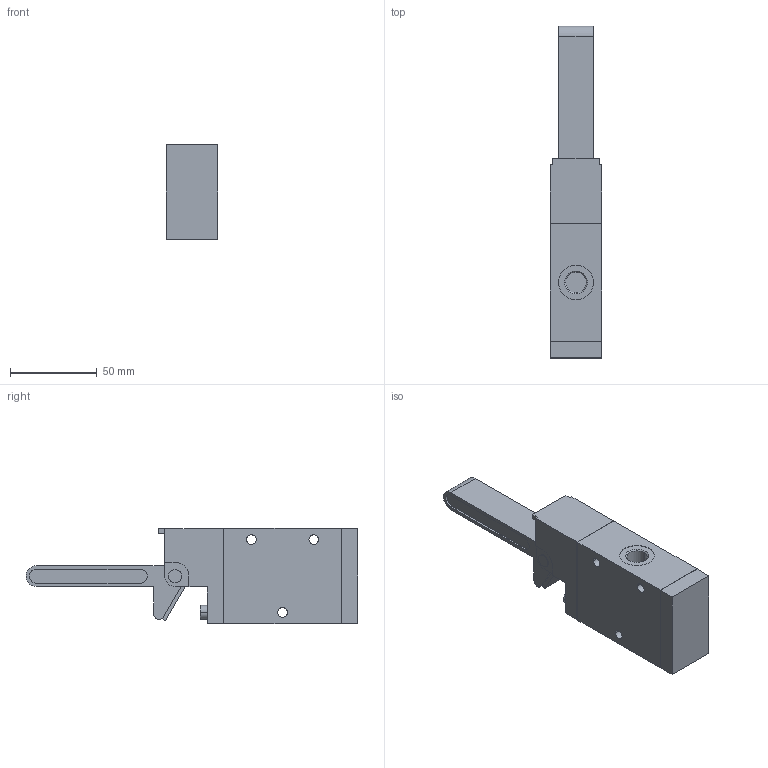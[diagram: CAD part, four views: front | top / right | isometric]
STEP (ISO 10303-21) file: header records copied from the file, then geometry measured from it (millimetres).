
FILE_DESCRIPTION((''),'2;1');
FILE_NAME('5634430100_ASM','2023-09-21T13:34:45',('THD3HC'),(''),'CREO PARAMETRIC BY PTC INC, 2020044','CREO PARAMETRIC BY PTC INC, 2020044','');
FILE_SCHEMA(('CONFIG_CONTROL_DESIGN','SHAPE_APPEARANCE_LAYERS_GROUPS'));
Length unit declared in the file: millimetre
Products named in the file (3): 5634430100-A; 5634430100-C; 5634430100_ASM
Assembly tree (2 placements, depth 2):
  5634430100_ASM
    5634430100-A
    5634430100-C
Bounding box: 30 x 191.5 x 55 mm (x, y, z)
Volume: 169715.1 mm3; surface area: 33507.3 mm2
Topology: 2 solids, 2 shells, 113 faces, 278 edges, 182 vertices
Faces by surface type: plane 62, cylinder 45, cone 6
Entity records: 5295 total; most frequent: DIRECTION 610, CARTESIAN_POINT 578, ORIENTED_EDGE 556, PRESENTATION_STYLE_ASSIGNMENT 361, STYLED_ITEM 280, CURVE_STYLE 278, EDGE_CURVE 278, AXIS2_PLACEMENT_3D 214
